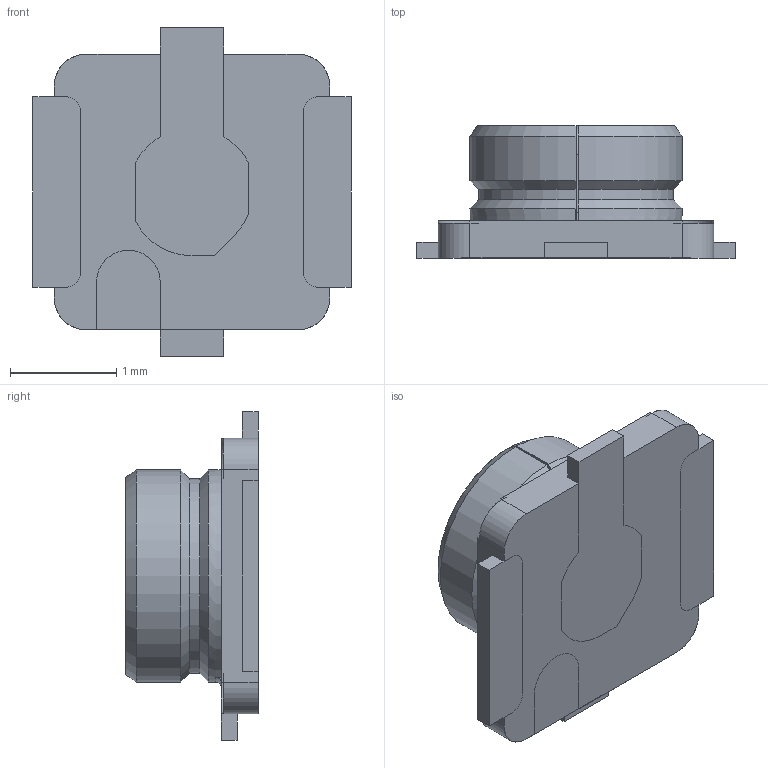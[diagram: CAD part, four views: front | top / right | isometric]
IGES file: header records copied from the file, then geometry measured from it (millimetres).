
Start section: SolidWorks IGES file using analytic representation for surfaces
Global section: file name: C:\3dwork\imaji\00.Web model check\00. New 3D\MHF I\20279-001E-01C RECEPTACLE R9 IGES ALL.IGS; native system: SolidWorks 2017; preprocessor: SolidWorks 2017; author: ipxcad-013; date: 180709.142137; units: millimetre
Bounding box: 3 x 1.25 x 3.1 mm (x, y, z)
Surface area: 34.9 mm2 (no closed solid volume)
Topology: 0 solids, 0 shells, 70 faces, 669 edges, 667 vertices
Faces by surface type: bspline 40, revolution 30
